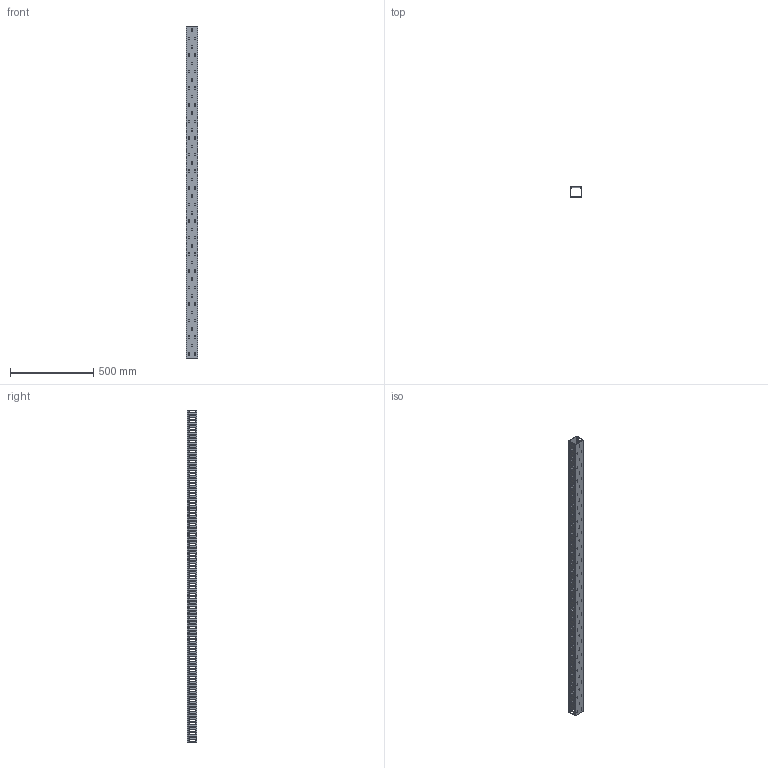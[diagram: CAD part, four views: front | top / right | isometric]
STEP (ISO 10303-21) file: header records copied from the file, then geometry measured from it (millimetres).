
FILE_DESCRIPTION (( 'STEP AP214' ), '1' );
FILE_NAME ('KD-76-20-H.STEP', '2020-02-19T00:53:37', ( '' ), ( '' ), 'SwSTEP 2.0', 'SolidWorks 2018', '' );
FILE_SCHEMA (( 'AUTOMOTIVE_DESIGN' ));
Length unit declared in the file: millimetre
Products named in the file (3): KD-76-20-H; KD-74-20-cover; KD-76-20-H-body
Assembly tree (2 placements, depth 2):
  KD-76-20-H
    KD-76-20-H-body
    KD-74-20-cover
Bounding box: 70 x 60.17 x 2000 mm (x, y, z)
Volume: 837447.5 mm3; surface area: 1059374 mm2
Topology: 2 solids, 2 shells, 1903 faces, 5697 edges, 3798 vertices
Faces by surface type: cylinder 957, plane 946
Entity records: 65775 total; most frequent: DIRECTION 11427, CARTESIAN_POINT 11403, ORIENTED_EDGE 11394, EDGE_CURVE 5697, AXIS2_PLACEMENT_3D 3822, VERTEX_POINT 3798, LINE 3783, VECTOR 3783
